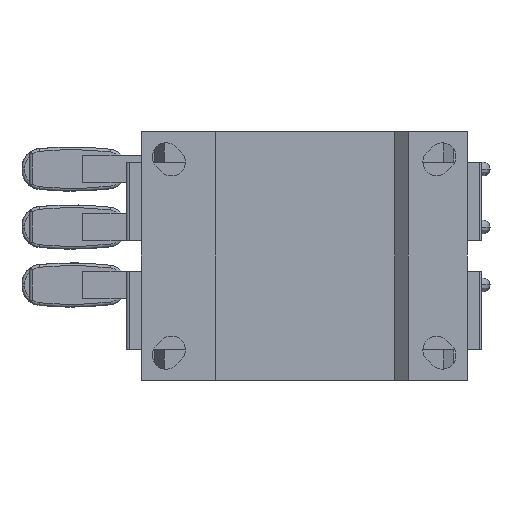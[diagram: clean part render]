
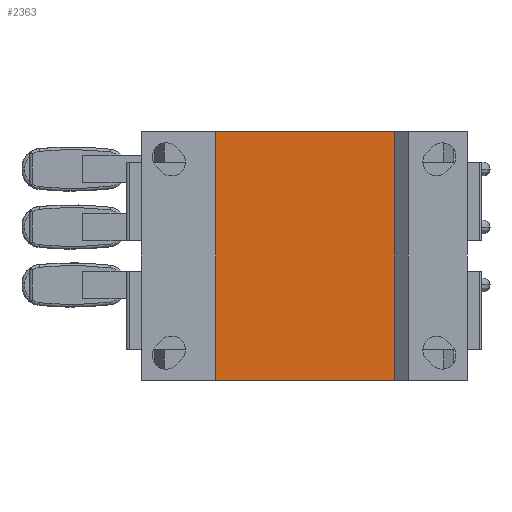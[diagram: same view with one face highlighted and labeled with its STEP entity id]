
A CAD part, front view. The second image highlights one B-rep face of the part: STEP entity #2363.
In plain terms, the highlighted planar face has unit normal (0, -1, 0).
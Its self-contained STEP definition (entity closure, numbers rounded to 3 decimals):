
#343 = VERTEX_POINT ( 'NONE', #8367 ) ;
#382 = ORIENTED_EDGE ( 'NONE', *, *, #6376, .F. ) ;
#557 = DIRECTION ( 'NONE',  ( 0., 0., 1. ) ) ;
#913 = LINE ( 'NONE', #3669, #1234 ) ;
#1079 = VECTOR ( 'NONE', #12682, 1000. ) ;
#1234 = VECTOR ( 'NONE', #11215, 1000. ) ;
#1322 = ORIENTED_EDGE ( 'NONE', *, *, #6144, .T. ) ;
#1459 = EDGE_LOOP ( 'NONE', ( #13823, #382, #2458, #1322 ) ) ;
#2342 = VECTOR ( 'NONE', #4287, 1000. ) ;
#2363 = ADVANCED_FACE ( 'NONE', ( #3994 ), #13426, .F. ) ;
#2458 = ORIENTED_EDGE ( 'NONE', *, *, #10363, .F. ) ;
#2663 = LINE ( 'NONE', #11827, #2342 ) ;
#3669 = CARTESIAN_POINT ( 'NONE',  ( -19.05, 4., 22.5 ) ) ;
#3994 = FACE_OUTER_BOUND ( 'NONE', #1459, .T. ) ;
#4287 = DIRECTION ( 'NONE',  ( 1., 0., 0. ) ) ;
#4604 = LINE ( 'NONE', #5143, #1079 ) ;
#4657 = AXIS2_PLACEMENT_3D ( 'NONE', #11240, #6975, #557 ) ;
#4725 = EDGE_CURVE ( 'NONE', #6920, #10699, #2663, .T. ) ;
#5143 = CARTESIAN_POINT ( 'NONE',  ( 17.65, 4., 22.5 ) ) ;
#6144 = EDGE_CURVE ( 'NONE', #6621, #6920, #913, .T. ) ;
#6376 = EDGE_CURVE ( 'NONE', #343, #10699, #4604, .T. ) ;
#6621 = VERTEX_POINT ( 'NONE', #9255 ) ;
#6920 = VERTEX_POINT ( 'NONE', #8869 ) ;
#6975 = DIRECTION ( 'NONE',  ( 0., 1., 0. ) ) ;
#7295 = VECTOR ( 'NONE', #8680, 1000. ) ;
#7573 = CARTESIAN_POINT ( 'NONE',  ( 17.65, 4., 22.5 ) ) ;
#7632 = LINE ( 'NONE', #7573, #7295 ) ;
#8367 = CARTESIAN_POINT ( 'NONE',  ( 17.65, 4., 22.5 ) ) ;
#8680 = DIRECTION ( 'NONE',  ( 1., 0., 0. ) ) ;
#8869 = CARTESIAN_POINT ( 'NONE',  ( -19.05, 4., -22.5 ) ) ;
#9124 = CARTESIAN_POINT ( 'NONE',  ( 17.65, 4., -22.5 ) ) ;
#9255 = CARTESIAN_POINT ( 'NONE',  ( -19.05, 4., 22.5 ) ) ;
#10363 = EDGE_CURVE ( 'NONE', #6621, #343, #7632, .T. ) ;
#10699 = VERTEX_POINT ( 'NONE', #9124 ) ;
#11215 = DIRECTION ( 'NONE',  ( 0., 0., -1. ) ) ;
#11240 = CARTESIAN_POINT ( 'NONE',  ( 17.65, 4., 22.5 ) ) ;
#11827 = CARTESIAN_POINT ( 'NONE',  ( 17.65, 4., -22.5 ) ) ;
#12682 = DIRECTION ( 'NONE',  ( 0., 0., -1. ) ) ;
#13426 = PLANE ( 'NONE',  #4657 ) ;
#13823 = ORIENTED_EDGE ( 'NONE', *, *, #4725, .T. ) ;
